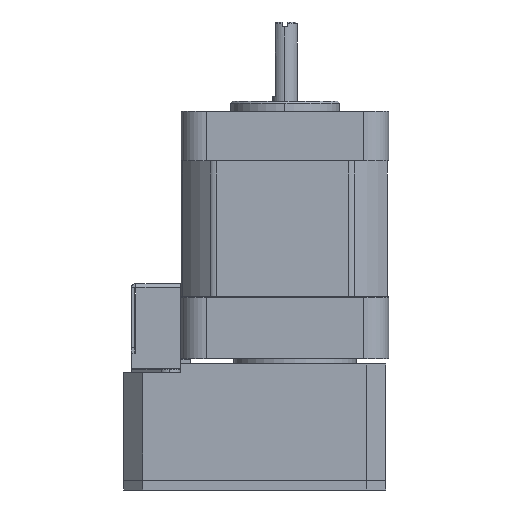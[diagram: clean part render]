
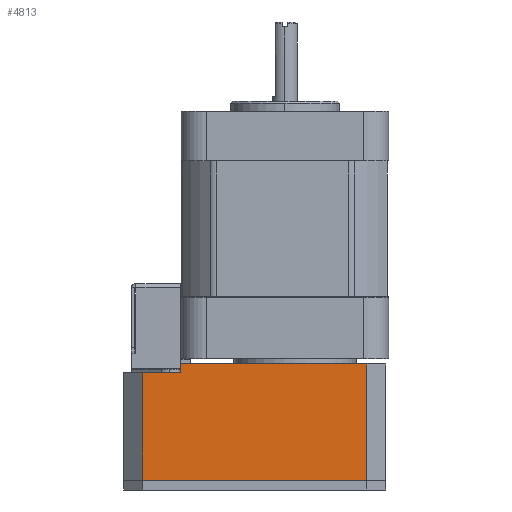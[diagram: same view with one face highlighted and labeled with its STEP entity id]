
A CAD part, left-side view. The second image highlights one B-rep face of the part: STEP entity #4813.
In plain terms, the highlighted planar face has unit normal (-1, 0, 0) as drawn and (1, 0, 0) by its records, which use the part's own axes.
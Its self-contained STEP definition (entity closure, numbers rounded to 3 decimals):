
#2152 = ORIENTED_EDGE ( 'NONE', *, *, #7023, .T. ) ;
#2153 = ORIENTED_EDGE ( 'NONE', *, *, #7129, .T. ) ;
#2154 = ORIENTED_EDGE ( 'NONE', *, *, #7130, .T. ) ;
#2155 = ORIENTED_EDGE ( 'NONE', *, *, #7131, .T. ) ;
#2156 = ORIENTED_EDGE ( 'NONE', *, *, #7132, .F. ) ;
#2157 = ORIENTED_EDGE ( 'NONE', *, *, #7104, .T. ) ;
#4813 = ADVANCED_FACE ( 'NONE', ( #14043 ), #15674, .T. ) ;
#5291 = EDGE_LOOP ( 'NONE', ( #2152, #2153, #2154, #2155, #2156, #2157 ) ) ;
#7023 = EDGE_CURVE ( 'NONE', #17237, #17241, #14297, .T. ) ;
#7104 = EDGE_CURVE ( 'NONE', #17074, #17237, #14435, .T. ) ;
#7129 = EDGE_CURVE ( 'NONE', #17241, #17036, #14475, .T. ) ;
#7130 = EDGE_CURVE ( 'NONE', #17036, #17034, #14477, .T. ) ;
#7131 = EDGE_CURVE ( 'NONE', #17034, #17031, #14479, .T. ) ;
#7132 = EDGE_CURVE ( 'NONE', #17074, #17031, #14481, .T. ) ;
#7778 = AXIS2_PLACEMENT_3D ( 'NONE', #15675, #15676, #15677 ) ;
#14043 = FACE_OUTER_BOUND ( 'NONE', #5291, .T. ) ;
#14297 = LINE ( 'NONE', #16140, #14298 ) ;
#14298 = VECTOR ( 'NONE', #16141, 1000. ) ;
#14435 = LINE ( 'NONE', #16347, #14436 ) ;
#14436 = VECTOR ( 'NONE', #16348, 1000. ) ;
#14475 = LINE ( 'NONE', #16407, #14476 ) ;
#14476 = VECTOR ( 'NONE', #16408, 1000. ) ;
#14477 = LINE ( 'NONE', #16409, #14478 ) ;
#14478 = VECTOR ( 'NONE', #16410, 1000. ) ;
#14479 = LINE ( 'NONE', #16411, #14480 ) ;
#14480 = VECTOR ( 'NONE', #16412, 1000. ) ;
#14481 = LINE ( 'NONE', #16413, #14482 ) ;
#14482 = VECTOR ( 'NONE', #16414, 1000. ) ;
#15674 = PLANE ( 'NONE',  #7778 ) ;
#15675 = CARTESIAN_POINT ( 'NONE',  ( 42., 0., 49.15 ) ) ;
#15676 = DIRECTION ( 'NONE',  ( 1., 0., 0. ) ) ;
#15677 = DIRECTION ( 'NONE',  ( 0., 0., -1. ) ) ;
#16140 = CARTESIAN_POINT ( 'NONE',  ( 42., 23.5, 26.5 ) ) ;
#16141 = DIRECTION ( 'NONE',  ( 0., 0., 1. ) ) ;
#16347 = CARTESIAN_POINT ( 'NONE',  ( 42., 11.75, 3.85 ) ) ;
#16348 = DIRECTION ( 'NONE',  ( 0., 1., 0. ) ) ;
#16407 = CARTESIAN_POINT ( 'NONE',  ( 42., 11.75, 41.5 ) ) ;
#16408 = DIRECTION ( 'NONE',  ( 0., -1., 0. ) ) ;
#16409 = CARTESIAN_POINT ( 'NONE',  ( 42., 21.75, 47.25 ) ) ;
#16410 = DIRECTION ( 'NONE',  ( 0., 0., 1. ) ) ;
#16411 = CARTESIAN_POINT ( 'NONE',  ( 42., 10.875, 49.15 ) ) ;
#16412 = DIRECTION ( 'NONE',  ( 0., -1., 0. ) ) ;
#16413 = CARTESIAN_POINT ( 'NONE',  ( 42., 0., 26.5 ) ) ;
#16414 = DIRECTION ( 'NONE',  ( 0., 0., 1. ) ) ;
#17031 = VERTEX_POINT ( 'NONE', #17634 ) ;
#17034 = VERTEX_POINT ( 'NONE', #17636 ) ;
#17036 = VERTEX_POINT ( 'NONE', #17638 ) ;
#17074 = VERTEX_POINT ( 'NONE', #17666 ) ;
#17237 = VERTEX_POINT ( 'NONE', #17806 ) ;
#17241 = VERTEX_POINT ( 'NONE', #17810 ) ;
#17634 = CARTESIAN_POINT ( 'NONE',  ( 42., 0., 49.15 ) ) ;
#17636 = CARTESIAN_POINT ( 'NONE',  ( 42., 21.75, 49.15 ) ) ;
#17638 = CARTESIAN_POINT ( 'NONE',  ( 42., 21.75, 41.5 ) ) ;
#17666 = CARTESIAN_POINT ( 'NONE',  ( 42., 0., 3.85 ) ) ;
#17806 = CARTESIAN_POINT ( 'NONE',  ( 42., 23.5, 3.85 ) ) ;
#17810 = CARTESIAN_POINT ( 'NONE',  ( 42., 23.5, 41.5 ) ) ;
